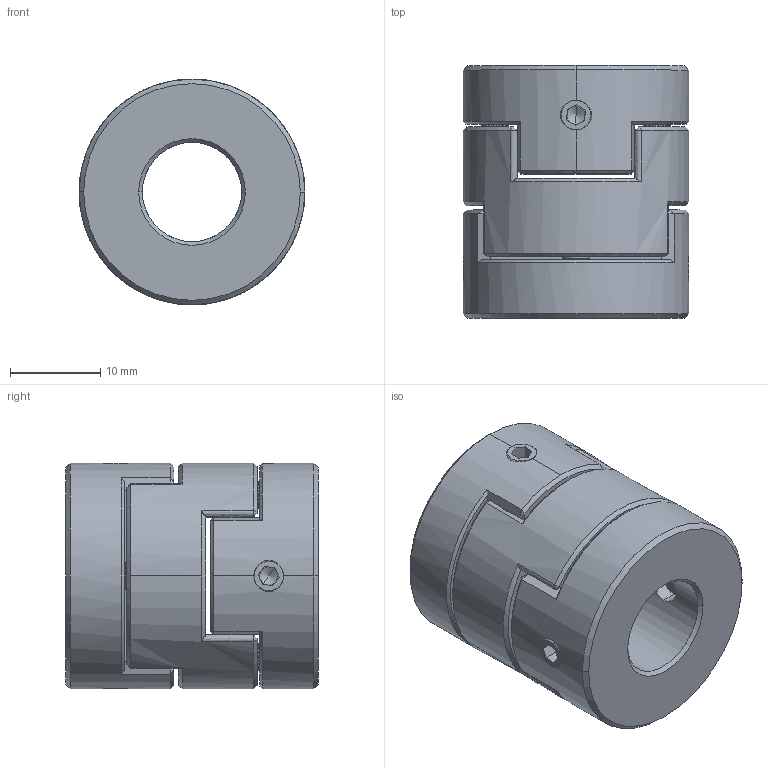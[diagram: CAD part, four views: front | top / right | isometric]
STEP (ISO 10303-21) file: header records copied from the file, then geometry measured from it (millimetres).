
FILE_DESCRIPTION (( 'STEP AP203' ), '1' );
FILE_NAME ('LZ-D-D25L28-11-11.STEP', '2021-10-30T02:22:35', ( '' ), ( '' ), 'SwSTEP 2.0', 'SolidWorks 2018', '' );
FILE_SCHEMA (( 'CONFIG_CONTROL_DESIGN' ));
Length unit declared in the file: millimetre
Products named in the file (1): LZ-D-D25L28-11-11
Bounding box: 25 x 28 x 25 mm (x, y, z)
Volume: 10510.3 mm3; surface area: 5529.2 mm2
Topology: 1 solids, 1 shells, 218 faces, 574 edges, 348 vertices
Faces by surface type: plane 88, cone 54, bspline 50, cylinder 26
Entity records: 9888 total; most frequent: CARTESIAN_POINT 4964, ORIENTED_EDGE 1132, DIRECTION 834, EDGE_CURVE 566, VERTEX_POINT 348, AXIS2_PLACEMENT_3D 303, EDGE_LOOP 234, LINE 228
